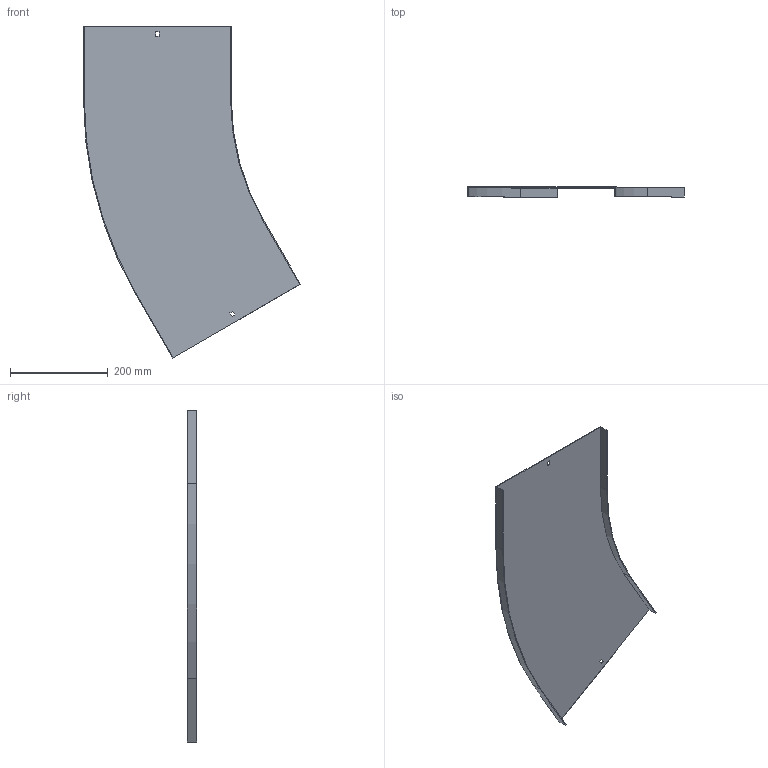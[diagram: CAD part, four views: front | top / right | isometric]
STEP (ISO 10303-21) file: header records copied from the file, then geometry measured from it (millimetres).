
FILE_DESCRIPTION (( 'STEP AP214' ), '1' );
FILE_NAME ('12N5R300.step', '2025-02-21T14:26:09', ( '' ), ( '' ), 'SwSTEP 2.0', 'SolidWorks 2023', '' );
FILE_SCHEMA (( 'AUTOMOTIVE_DESIGN' ));
Length unit declared in the file: millimetre
Products named in the file (1): 12N5R300
Bounding box: 444.79 x 20 x 680.65 mm (x, y, z)
Volume: 326397.5 mm3; surface area: 438230.7 mm2
Topology: 1 solids, 1 shells, 26 faces, 72 edges, 48 vertices
Faces by surface type: plane 22, cylinder 4
Entity records: 855 total; most frequent: CARTESIAN_POINT 147, ORIENTED_EDGE 144, DIRECTION 134, EDGE_CURVE 72, VECTOR 64, LINE 64, VERTEX_POINT 48, AXIS2_PLACEMENT_3D 35
